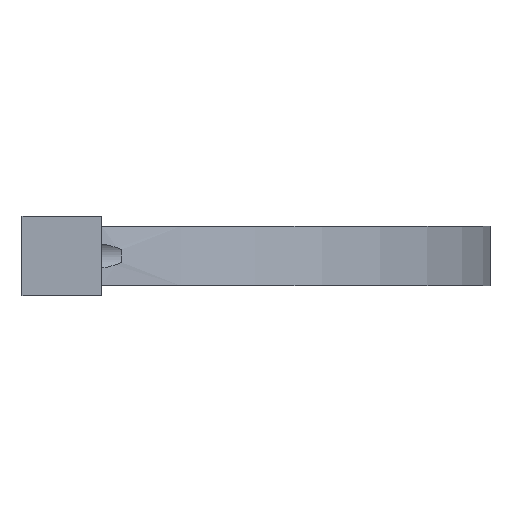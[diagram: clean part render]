
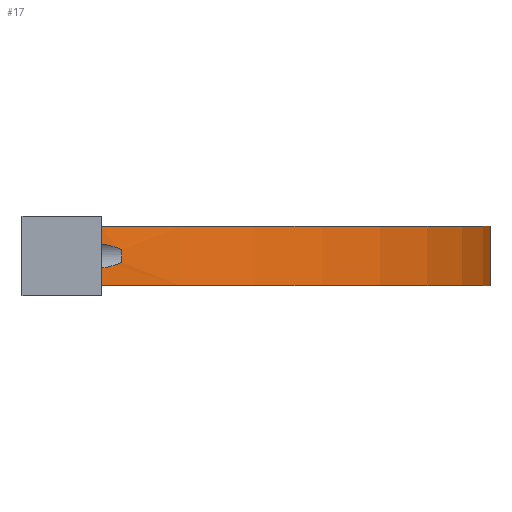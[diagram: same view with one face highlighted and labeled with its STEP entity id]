
A CAD part, left-side view. The second image highlights one B-rep face of the part: STEP entity #17.
In plain terms, the highlighted cylindrical face has radius 47 mm (diameter 94 mm), a partial arc.
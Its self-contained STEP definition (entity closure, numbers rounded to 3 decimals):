
#17 = ADVANCED_FACE('',(#18),#154,.T.);
#18 = FACE_BOUND('',#19,.T.);
#19 = EDGE_LOOP('',(#20,#30,#39,#47,#64,#72,#89,#97,#106,#114,#131,#139)
  );
#20 = ORIENTED_EDGE('',*,*,#21,.F.);
#21 = EDGE_CURVE('',#22,#24,#26,.T.);
#22 = VERTEX_POINT('',#23);
#23 = CARTESIAN_POINT('',(-11.314,-116.,250.));
#24 = VERTEX_POINT('',#25);
#25 = CARTESIAN_POINT('',(-11.314,-116.,251.782));
#26 = LINE('',#27,#28);
#27 = CARTESIAN_POINT('',(-11.314,-116.,250.));
#28 = VECTOR('',#29,1.);
#29 = DIRECTION('',(0.,0.,1.));
#30 = ORIENTED_EDGE('',*,*,#31,.T.);
#31 = EDGE_CURVE('',#22,#32,#34,.T.);
#32 = VERTEX_POINT('',#33);
#33 = CARTESIAN_POINT('',(81.314,-116.,250.));
#34 = CIRCLE('',#35,47.);
#35 = AXIS2_PLACEMENT_3D('',#36,#37,#38);
#36 = CARTESIAN_POINT('',(35.,-108.,250.));
#37 = DIRECTION('',(0.,0.,1.));
#38 = DIRECTION('',(1.,0.,0.));
#39 = ORIENTED_EDGE('',*,*,#40,.T.);
#40 = EDGE_CURVE('',#32,#41,#43,.T.);
#41 = VERTEX_POINT('',#42);
#42 = CARTESIAN_POINT('',(81.314,-116.,251.782));
#43 = LINE('',#44,#45);
#44 = CARTESIAN_POINT('',(81.314,-116.,250.));
#45 = VECTOR('',#46,1.);
#46 = DIRECTION('',(0.,0.,1.));
#47 = ORIENTED_EDGE('',*,*,#48,.T.);
#48 = EDGE_CURVE('',#41,#49,#51,.T.);
#49 = VERTEX_POINT('',#50);
#50 = CARTESIAN_POINT('',(80.924,-118.,252.363));
#51 = B_SPLINE_CURVE_WITH_KNOTS('',6,(#52,#53,#54,#55,#56,#57,#58,#59,
    #60,#61,#62,#63),.UNSPECIFIED.,.F.,.F.,(7,5,7),(0.,0.766,1.
    ),.UNSPECIFIED.);
#52 = CARTESIAN_POINT('',(81.314,-116.,251.782));
#53 = CARTESIAN_POINT('',(81.268,-116.268,251.827
    ));
#54 = CARTESIAN_POINT('',(81.221,-116.53,
    251.877));
#55 = CARTESIAN_POINT('',(81.172,-116.79,251.934
    ));
#56 = CARTESIAN_POINT('',(81.121,-117.053,
    251.999));
#57 = CARTESIAN_POINT('',(81.069,-117.313,
    252.076));
#58 = CARTESIAN_POINT('',(81.002,-117.636,252.196
    ));
#59 = CARTESIAN_POINT('',(80.986,-117.711,252.226
    ));
#60 = CARTESIAN_POINT('',(80.97,-117.785,
    252.257));
#61 = CARTESIAN_POINT('',(80.955,-117.858,
    252.29));
#62 = CARTESIAN_POINT('',(80.939,-117.93,
    252.325));
#63 = CARTESIAN_POINT('',(80.924,-118.,252.363)
  );
#64 = ORIENTED_EDGE('',*,*,#65,.T.);
#65 = EDGE_CURVE('',#49,#66,#68,.T.);
#66 = VERTEX_POINT('',#67);
#67 = CARTESIAN_POINT('',(80.924,-118.,253.637));
#68 = LINE('',#69,#70);
#69 = CARTESIAN_POINT('',(80.924,-118.,250.));
#70 = VECTOR('',#71,1.);
#71 = DIRECTION('',(0.,0.,1.));
#72 = ORIENTED_EDGE('',*,*,#73,.T.);
#73 = EDGE_CURVE('',#66,#74,#76,.T.);
#74 = VERTEX_POINT('',#75);
#75 = CARTESIAN_POINT('',(81.314,-116.,254.218));
#76 = B_SPLINE_CURVE_WITH_KNOTS('',6,(#77,#78,#79,#80,#81,#82,#83,#84,
    #85,#86,#87,#88),.UNSPECIFIED.,.F.,.F.,(7,5,7),(0.,0.505,1.
    ),.UNSPECIFIED.);
#77 = CARTESIAN_POINT('',(80.924,-118.,253.637)
  );
#78 = CARTESIAN_POINT('',(80.957,-117.849,253.718
    ));
#79 = CARTESIAN_POINT('',(80.991,-117.687,
    253.789));
#80 = CARTESIAN_POINT('',(81.026,-117.523,
    253.851));
#81 = CARTESIAN_POINT('',(81.06,-117.358,
    253.906));
#82 = CARTESIAN_POINT('',(81.093,-117.192,
    253.955));
#83 = CARTESIAN_POINT('',(81.159,-116.853,
    254.046));
#84 = CARTESIAN_POINT('',(81.191,-116.684,
    254.087));
#85 = CARTESIAN_POINT('',(81.223,-116.514,
    254.124));
#86 = CARTESIAN_POINT('',(81.254,-116.343,254.158
    ));
#87 = CARTESIAN_POINT('',(81.284,-116.172,254.189
    ));
#88 = CARTESIAN_POINT('',(81.314,-116.,254.218));
#89 = ORIENTED_EDGE('',*,*,#90,.T.);
#90 = EDGE_CURVE('',#74,#91,#93,.T.);
#91 = VERTEX_POINT('',#92);
#92 = CARTESIAN_POINT('',(81.314,-116.,256.));
#93 = LINE('',#94,#95);
#94 = CARTESIAN_POINT('',(81.314,-116.,250.));
#95 = VECTOR('',#96,1.);
#96 = DIRECTION('',(0.,0.,1.));
#97 = ORIENTED_EDGE('',*,*,#98,.F.);
#98 = EDGE_CURVE('',#99,#91,#101,.T.);
#99 = VERTEX_POINT('',#100);
#100 = CARTESIAN_POINT('',(-11.314,-116.,256.));
#101 = CIRCLE('',#102,47.);
#102 = AXIS2_PLACEMENT_3D('',#103,#104,#105);
#103 = CARTESIAN_POINT('',(35.,-108.,256.));
#104 = DIRECTION('',(0.,0.,1.));
#105 = DIRECTION('',(1.,0.,0.));
#106 = ORIENTED_EDGE('',*,*,#107,.F.);
#107 = EDGE_CURVE('',#108,#99,#110,.T.);
#108 = VERTEX_POINT('',#109);
#109 = CARTESIAN_POINT('',(-11.314,-116.,254.218));
#110 = LINE('',#111,#112);
#111 = CARTESIAN_POINT('',(-11.314,-116.,250.));
#112 = VECTOR('',#113,1.);
#113 = DIRECTION('',(0.,0.,1.));
#114 = ORIENTED_EDGE('',*,*,#115,.T.);
#115 = EDGE_CURVE('',#108,#116,#118,.T.);
#116 = VERTEX_POINT('',#117);
#117 = CARTESIAN_POINT('',(-10.924,-118.,253.637));
#118 = B_SPLINE_CURVE_WITH_KNOTS('',6,(#119,#120,#121,#122,#123,#124,
    #125,#126,#127,#128,#129,#130),.UNSPECIFIED.,.F.,.F.,(7,5,7),(0.,
    0.766,1.),.UNSPECIFIED.);
#119 = CARTESIAN_POINT('',(-11.314,-116.,254.218));
#120 = CARTESIAN_POINT('',(-11.268,-116.268,
    254.173));
#121 = CARTESIAN_POINT('',(-11.221,-116.53,
    254.123));
#122 = CARTESIAN_POINT('',(-11.172,-116.79,
    254.066));
#123 = CARTESIAN_POINT('',(-11.121,-117.053,
    254.001));
#124 = CARTESIAN_POINT('',(-11.069,-117.313,
    253.924));
#125 = CARTESIAN_POINT('',(-11.002,-117.636,253.804
    ));
#126 = CARTESIAN_POINT('',(-10.986,-117.711,253.774
    ));
#127 = CARTESIAN_POINT('',(-10.97,-117.785,
    253.743));
#128 = CARTESIAN_POINT('',(-10.955,-117.858,
    253.71));
#129 = CARTESIAN_POINT('',(-10.939,-117.93,
    253.675));
#130 = CARTESIAN_POINT('',(-10.924,-118.,253.637)
  );
#131 = ORIENTED_EDGE('',*,*,#132,.F.);
#132 = EDGE_CURVE('',#133,#116,#135,.T.);
#133 = VERTEX_POINT('',#134);
#134 = CARTESIAN_POINT('',(-10.924,-118.,252.363));
#135 = LINE('',#136,#137);
#136 = CARTESIAN_POINT('',(-10.924,-118.,250.));
#137 = VECTOR('',#138,1.);
#138 = DIRECTION('',(0.,0.,1.));
#139 = ORIENTED_EDGE('',*,*,#140,.T.);
#140 = EDGE_CURVE('',#133,#24,#141,.T.);
#141 = B_SPLINE_CURVE_WITH_KNOTS('',6,(#142,#143,#144,#145,#146,#147,
    #148,#149,#150,#151,#152,#153),.UNSPECIFIED.,.F.,.F.,(7,5,7),(0.,
    0.505,1.),.UNSPECIFIED.);
#142 = CARTESIAN_POINT('',(-10.924,-118.,252.363)
  );
#143 = CARTESIAN_POINT('',(-10.957,-117.849,
    252.282));
#144 = CARTESIAN_POINT('',(-10.991,-117.687,
    252.211));
#145 = CARTESIAN_POINT('',(-11.026,-117.523,
    252.149));
#146 = CARTESIAN_POINT('',(-11.06,-117.358,
    252.094));
#147 = CARTESIAN_POINT('',(-11.093,-117.192,
    252.045));
#148 = CARTESIAN_POINT('',(-11.159,-116.853,
    251.954));
#149 = CARTESIAN_POINT('',(-11.191,-116.684,
    251.913));
#150 = CARTESIAN_POINT('',(-11.223,-116.514,
    251.876));
#151 = CARTESIAN_POINT('',(-11.254,-116.343,
    251.842));
#152 = CARTESIAN_POINT('',(-11.284,-116.172,
    251.811));
#153 = CARTESIAN_POINT('',(-11.314,-116.,251.782));
#154 = CYLINDRICAL_SURFACE('',#155,47.);
#155 = AXIS2_PLACEMENT_3D('',#156,#157,#158);
#156 = CARTESIAN_POINT('',(35.,-108.,250.));
#157 = DIRECTION('',(0.,0.,1.));
#158 = DIRECTION('',(1.,0.,0.));
